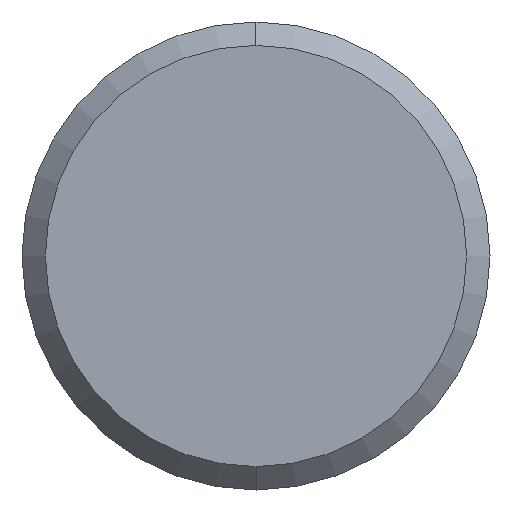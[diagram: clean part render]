
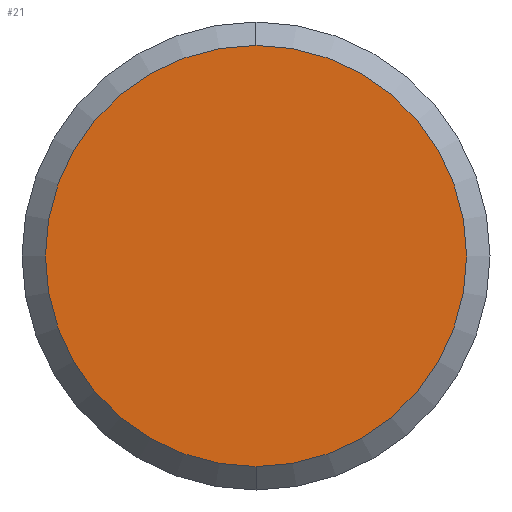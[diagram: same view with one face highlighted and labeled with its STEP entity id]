
A CAD part, left-side view. The second image highlights one B-rep face of the part: STEP entity #21.
In plain terms, the highlighted planar face has unit normal (-1, 0, 0).
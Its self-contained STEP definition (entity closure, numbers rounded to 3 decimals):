
#1=CARTESIAN_POINT('POINT30',(-8.738,0.,
   3.932));
#2=VERTEX_POINT('VERTEX30',#1);
#3=CARTESIAN_POINT('POINT31',(-8.738,0.,
   -3.932));
#4=VERTEX_POINT('VERTEX31',#3);
#5=CARTESIAN_POINT('POS48',(-8.738,0.,0.
   ));
#6=DIRECTION('DIR77',(1.,0.,
   0.));
#7=DIRECTION('DIR78',(0.,0.,
   1.));
#8=AXIS2_PLACEMENT_3D('AXIS30',#5,#6,#7);
#9=CIRCLE('ELLIPSE15',#8,3.932);
#10=EDGE_CURVE('EDGE47',#2,#4,#9,.T.);
#11=ORIENTED_EDGE('COEDGE93',*,*,#10,.F.);
#12=EDGE_CURVE('EDGE48',#4,#2,#9,.T.);
#13=ORIENTED_EDGE('COEDGE94',*,*,#12,.F.);
#14=EDGE_LOOP('NONE',(#11,#13));
#15=FACE_BOUND('LOOP1',#14,.T.);
#16=CARTESIAN_POINT('POS49',(-8.738,0.,
   1.966));
#17=DIRECTION('DIR79',(-1.,0.,0.));
#18=DIRECTION('DIR80',(0.,1.,0.));
#19=AXIS2_PLACEMENT_3D('AXIS31',#16,#17,#18);
#20=PLANE('PLANE7',#19);
#21=ADVANCED_FACE('FACE25',(#15),#20,.T.);
